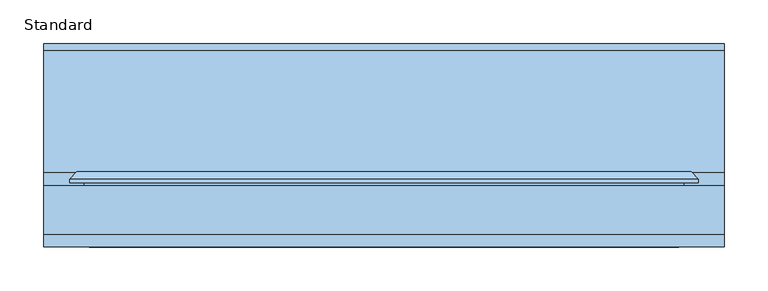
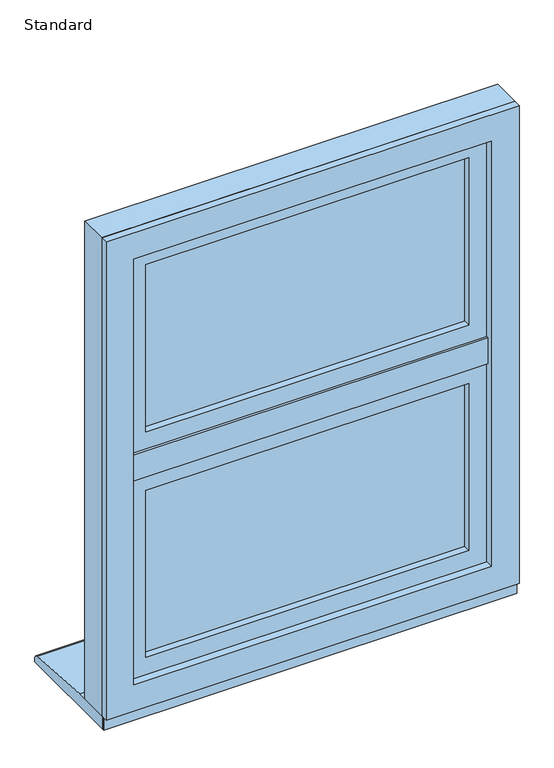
"""IFC4 building model written with IfcOpenShell, lengths in millimetres: window geometry, SMARTS_Alitherm600 : Standard."""

import ifcopenshell
import ifcopenshell.guid

model = None  # the IFC model being written
_history = None  # IfcOwnerHistory: only IFC2X3 demands one
_inside = {}  # id of a spatial element -> (the spatial element, [elements in it])
_under = {}  # id of a project, library or spatial element -> (it, [spatial elements below it])
_declared = {}  # id of a project -> (the project, [libraries it declares])
_typed = {}  # id of a type object -> (the type object, [elements of that type])
_made_of = {}  # id of a material, layer set ... -> (it, [elements and type objects made of it])


def new_model(schema):
    """Start an empty IFC model of exactly this schema.

    Asked for "IFC4X3", IfcOpenShell would pick the latest addendum, in which some entities
    have other attributes; the version numbers below select the first issue.
    IFC2X3 requires an IfcOwnerHistory on every rooted entity: one is made here for all.
    """
    global model, _history
    if schema == "IFC4X3":
        model = ifcopenshell.file(schema_version=(4, 3, 0, 0))
    else:
        model = ifcopenshell.file(schema=schema)
    _inside.clear()
    _under.clear()
    _declared.clear()
    _typed.clear()
    _made_of.clear()
    _history = None
    if model.schema == "IFC2X3":
        org = make("IfcOrganization", Name="unknown")
        user = make(
            "IfcPersonAndOrganization",
            ThePerson=make("IfcPerson", FamilyName="unknown"),
            TheOrganization=org,
        )
        app = make(
            "IfcApplication",
            ApplicationDeveloper=org,
            Version="unknown",
            ApplicationFullName="unknown",
            ApplicationIdentifier="unknown",
        )
        _history = make(
            "IfcOwnerHistory",
            OwningUser=user,
            OwningApplication=app,
            ChangeAction="ADDED",
            CreationDate=0,
        )
    return model


def make(cls, **values):
    """One entity of the class cls with the attributes given. An attribute that is None is left unset."""
    return model.create_entity(
        cls, **{name: value for name, value in values.items() if value is not None}
    )


def rooted(cls, **values):
    """An entity with a GlobalId (a new one), such as an element, a storey or a relation."""
    return make(cls, GlobalId=ifcopenshell.guid.new(), OwnerHistory=_history, **values)


def si_unit(unit_type, name, prefix=None):
    """IfcSIUnit, for example si_unit("LENGTHUNIT", "METRE", prefix="MILLI")."""
    return make("IfcSIUnit", UnitType=unit_type, Prefix=prefix, Name=name)


def assignment(units):
    """IfcUnitAssignment: the units of a project."""
    return None if units is None else make("IfcUnitAssignment", Units=units)


def point(xyz):
    """IfcCartesianPoint."""
    return None if xyz is None else make("IfcCartesianPoint", Coordinates=xyz)


def direction(xyz):
    """IfcDirection."""
    return None if xyz is None else make("IfcDirection", DirectionRatios=xyz)


def frame(location, z_axis=None, x_axis=None):
    """IfcAxis2Placement3D, a coordinate frame: its origin and axes. An axis left out is left unset."""
    return make(
        "IfcAxis2Placement3D",
        Location=point(location),
        Axis=direction(z_axis),
        RefDirection=direction(x_axis),
    )


def frame_2d(location, x_axis=None):
    """IfcAxis2Placement2D, a coordinate frame in the plane: its origin and x axis."""
    return make(
        "IfcAxis2Placement2D", Location=point(location), RefDirection=direction(x_axis)
    )


def origin():
    """The frame at (0, 0, 0) with its axes left unset."""
    return frame((0.0, 0.0, 0.0))


def place(relative_to, where):
    """IfcLocalPlacement: puts the frame where relative to a parent placement (None: the world)."""
    return make(
        "IfcLocalPlacement", PlacementRelTo=relative_to, RelativePlacement=where
    )


def context(
    kind, dimensions, precision=None, world=None, true_north=None, identifier=None
):
    """IfcGeometricRepresentationContext, for example the 3D "Model" context."""
    return make(
        "IfcGeometricRepresentationContext",
        ContextIdentifier=identifier,
        ContextType=kind,
        CoordinateSpaceDimension=dimensions,
        Precision=precision,
        WorldCoordinateSystem=world,
        TrueNorth=true_north,
    )


def project(units=None, contexts=None):
    """IfcProject with its units and contexts."""
    return rooted(
        "IfcProject",
        Name="project",
        RepresentationContexts=contexts,
        UnitsInContext=assignment(units),
    )


def spatial(cls, under=None, at=None, **own):
    """A site, building, storey or space (cls), placed at a placement, below another one or the project."""
    s = rooted(cls, ObjectPlacement=at, **own)
    if under is not None:
        _under.setdefault(under.id(), (under, []))[1].append(s)
    return s


def polyline(points):
    """IfcPolyline through the points."""
    return make("IfcPolyline", Points=[point(p) for p in points])


def circle_curve(where, radius):
    """IfcCircle in the frame where."""
    return make("IfcCircle", Position=where, Radius=radius)


def trimmed(basis, trim1, trim2, sense, master):
    """IfcTrimmedCurve: the piece of a basis curve between two trims."""
    return make(
        "IfcTrimmedCurve",
        BasisCurve=basis,
        Trim1=trim1,
        Trim2=trim2,
        SenseAgreement=sense,
        MasterRepresentation=master,
    )


def segment(curve, same_sense, transition):
    """IfcCompositeCurveSegment."""
    return make(
        "IfcCompositeCurveSegment",
        Transition=transition,
        SameSense=same_sense,
        ParentCurve=curve,
    )


def composite_curve(segments, self_intersect=None):
    """IfcCompositeCurve: segments joined end to end."""
    return make("IfcCompositeCurve", Segments=segments, SelfIntersect=self_intersect)


def outline(outer, holes=None, kind="AREA"):
    """IfcArbitraryClosedProfileDef: a profile drawn as a closed curve; with holes, ...WithVoids."""
    if holes is None:
        return make("IfcArbitraryClosedProfileDef", ProfileType=kind, OuterCurve=outer)
    return make(
        "IfcArbitraryProfileDefWithVoids",
        ProfileType=kind,
        OuterCurve=outer,
        InnerCurves=holes,
    )


def extrude(swept, where, along, depth):
    """IfcExtrudedAreaSolid: the profile swept, set in the frame where, extruded along a direction by depth."""
    return make(
        "IfcExtrudedAreaSolid",
        SweptArea=swept,
        Position=where,
        ExtrudedDirection=direction(along),
        Depth=depth,
    )


def faces_of(points, faces, orient=None, outer=None):
    """IfcFace entities. A face is a list of loops; a loop is a list of indices into points, from 0.

    orient and outer hold one flag for each loop. By default every Orientation is true, the
    first loop of a face is its IfcFaceOuterBound and the others are IfcFaceBound.
    """
    made = []
    for i, loops in enumerate(faces):
        bounds = []
        for j, loop in enumerate(loops):
            is_outer = j == 0 if outer is None else outer[i][j]
            bounds.append(
                make(
                    "IfcFaceOuterBound" if is_outer else "IfcFaceBound",
                    Bound=make("IfcPolyLoop", Polygon=[points[k] for k in loop]),
                    Orientation=True if orient is None else orient[i][j],
                )
            )
        made.append(make("IfcFace", Bounds=bounds))
    return made


def faceted_brep(points, faces, orient=None, outer=None, voids=None):
    """IfcFacetedBrep: a solid bounded by flat faces; with voids (closed shells), ...WithVoids."""
    shared = [point(p) for p in points]
    hull = make("IfcClosedShell", CfsFaces=faces_of(shared, faces, orient, outer))
    if voids is None:
        return make("IfcFacetedBrep", Outer=hull)
    return make(
        "IfcFacetedBrepWithVoids",
        Outer=hull,
        Voids=[
            make(cls, CfsFaces=faces_of(shared, fs, o, b)) for cls, fs, o, b in voids
        ],
    )


def shape(context_of_items, identifier, shape_type, items):
    """IfcShapeRepresentation: the items that make up one representation, for example the "Body"."""
    return make(
        "IfcShapeRepresentation",
        ContextOfItems=context_of_items,
        RepresentationIdentifier=identifier,
        RepresentationType=shape_type,
        Items=items,
    )


def source(mapping_origin, context_of_items, identifier, shape_type, items):
    """IfcRepresentationMap: a shape defined once, which mapped items show again and again."""
    return make(
        "IfcRepresentationMap",
        MappingOrigin=mapping_origin,
        MappedRepresentation=shape(context_of_items, identifier, shape_type, items),
    )


def transform(
    local_origin,
    x_axis=None,
    y_axis=None,
    z_axis=None,
    scale=None,
    scale2=None,
    scale3=None,
    uniform=True,
):
    """IfcCartesianTransformationOperator3D, or its non-uniform kind. x_axis, y_axis, z_axis: its Axis1, 2, 3."""
    if uniform:
        return make(
            "IfcCartesianTransformationOperator3D",
            Axis1=direction(x_axis),
            Axis2=direction(y_axis),
            LocalOrigin=point(local_origin),
            Scale=scale,
            Axis3=direction(z_axis),
        )
    return make(
        "IfcCartesianTransformationOperator3DnonUniform",
        Axis1=direction(x_axis),
        Axis2=direction(y_axis),
        LocalOrigin=point(local_origin),
        Scale=scale,
        Axis3=direction(z_axis),
        Scale2=scale2,
        Scale3=scale3,
    )


def mapped(mapping_source, mapping_target):
    """IfcMappedItem: shows the shape of a source again, moved by a transform."""
    return make(
        "IfcMappedItem", MappingSource=mapping_source, MappingTarget=mapping_target
    )


def made_of(thing, what):
    """Note that an element or type object is made of a material, layer set ...; save() writes the relation."""
    if what is not None:
        _made_of.setdefault(what.id(), (what, []))[1].append(thing)
    return thing


def element(
    cls,
    number,
    at=None,
    inside=None,
    cuts=None,
    type_object=None,
    material=None,
    context=None,
    identifier="Body",
    shape_type=None,
    held_by="IfcProductDefinitionShape",
    body=None,
    shapes=None,
    **own,
):
    """One element of the class cls, such as IfcWall. Its Tag is "e" and its number.

    at: its placement. inside: the storey or other place that contains it. cuts: it is an
    opening in that element (IfcRelVoidsElement). A single representation is given by context,
    identifier, shape_type and body (its items); several are given by shapes. held_by: the class
    of the entity that holds the representations. save() writes the other relations.
    """
    e = rooted(cls, Tag="e%d" % number, ObjectPlacement=at, **own)
    if body is not None:
        shapes = [shape(context, identifier, shape_type, body)]
    if shapes is not None:
        e.Representation = make(held_by, Representations=shapes)
    if inside is not None:
        _inside.setdefault(inside.id(), (inside, []))[1].append(e)
    if cuts is not None:
        rooted(
            "IfcRelVoidsElement", RelatingBuildingElement=cuts, RelatedOpeningElement=e
        )
    if type_object is not None:
        _typed.setdefault(type_object.id(), (type_object, []))[1].append(e)
    return made_of(e, material)


def aggregate(whole, parts):
    """IfcRelAggregates: a whole, such as a stair, and the parts it consists of."""
    return rooted("IfcRelAggregates", RelatingObject=whole, RelatedObjects=parts)


def save(model, path):
    """Write the relations noted so far, then the file.

    IfcRelAggregates (storeys below a building ...), IfcRelContainedInSpatialStructure (elements
    in a storey), IfcRelDefinesByType, IfcRelAssociatesMaterial and IfcRelDeclares: one each for
    every whole, place, type object, material and project.
    """
    for whole, parts in _under.values():
        aggregate(whole, parts)
    for where, things in _inside.values():
        rooted(
            "IfcRelContainedInSpatialStructure",
            RelatedElements=things,
            RelatingStructure=where,
        )
    for kind, things in _typed.values():
        rooted("IfcRelDefinesByType", RelatedObjects=things, RelatingType=kind)
    for what, things in _made_of.values():
        rooted("IfcRelAssociatesMaterial", RelatedObjects=things, RelatingMaterial=what)
    for by, libraries in _declared.values():
        rooted("IfcRelDeclares", RelatingContext=by, RelatedDefinitions=libraries)
    model.write(path)


def standard_c10d99b5(model_context):
    return source(origin(), model_context, "Body", "SolidModel", [
        extrude(outline(polyline([(354.1020883, 102.8298432), (354.1020883, 47.2458572), (-354.1020883, 47.2458572), (-354.1020883, 102.8298432), (354.1020883, 102.8298432)])), frame((0.0, 0.0, 1103.1), z_axis=(0.0, 0.0, 1.0), x_axis=(1.0, 0.0, 0.0)), (0.0, 0.0, 1.0), 18.8),
        extrude(outline(polyline([(337.6, 47.2458572), (337.6, 43.2798432), (-337.6, 43.2798432), (-337.6, 47.2458572), (337.6, 47.2458572)])), frame((0.0, 0.0, 1086.5979117), z_axis=(0.0, 0.0, 1.0), x_axis=(1.0, 0.0, 0.0)), (0.0, 0.0, 1.0), 51.8041766),
        extrude(outline(polyline([(1065.5, -316.6), (708.4, -316.6), (708.4, 316.6), (1065.5, 316.6), (1065.5, -316.6)]), holes=[polyline([(1055.5, 306.6), (718.4, 306.6), (718.4, -306.6), (1055.5, -306.6), (1055.5, 306.6)])]), frame((0.0, 72.3211351, 0.0), z_axis=(0.0, 1.0, 0.0), x_axis=(0.0, 0.0, 1.0)), (0.0, 0.0, 1.0), 16.0),
        extrude(outline(polyline([(-316.6, 92.3211351), (316.6, 92.3211351), (316.6, 88.3211351), (-316.6, 88.3211351), (-316.6, 92.3211351)])), frame((0.0, 0.0, 708.4), z_axis=(0.0, 0.0, 1.0), x_axis=(1.0, 0.0, 0.0)), (0.0, 0.0, 1.0), 357.1),
        extrude(outline(polyline([(-316.6, 72.3211351), (316.6, 72.3211351), (316.6, 68.3211351), (-316.6, 68.3211351), (-316.6, 72.3211351)])), frame((0.0, 0.0, 708.4), z_axis=(0.0, 0.0, 1.0), x_axis=(1.0, 0.0, 0.0)), (0.0, 0.0, 1.0), 357.1),
        faceted_brep([(316.9221147, 118.8818325, 1065.8221147), (304.740024, 97.7818325, 1053.640024), (-304.740024, 97.7818325, 1053.640024), (-316.9221147, 118.8818325, 1065.8221147), (321.6060494, 97.7818325, 1070.5060494), (321.6060494, 118.8818325, 1070.5060494), (-321.6060494, 118.8818325, 1070.5060494), (-321.6060494, 97.7818325, 1070.5060494), (-304.740024, 97.7818325, 720.259976), (-316.9221147, 118.8818325, 708.0778853), (-321.6060494, 118.8818325, 703.3939506), (-321.6060494, 97.7818325, 703.3939506), (304.740024, 97.7818325, 720.259976), (316.9221147, 118.8818325, 708.0778853), (321.6060494, 118.8818325, 703.3939506), (321.6060494, 97.7818325, 703.3939506)], [[[0, 1, 2, 3]], [[4, 5, 6, 7]], [[3, 2, 8, 9]], [[7, 6, 10, 11]], [[9, 8, 12, 13]], [[11, 10, 14, 15]], [[13, 12, 1, 0]], [[5, 14, 10, 6], [3, 9, 13, 0]], [[15, 14, 5, 4]], [[7, 11, 15, 4], [1, 12, 8, 2]]]),
        extrude(outline(polyline([(681.552908, -343.447092), (681.552908, 343.447092), (1092.347092, 343.447092), (1092.347092, -343.447092), (681.552908, -343.447092)]), holes=[polyline([(1054.0, -305.1), (1054.0, 305.1), (719.9, 305.1), (719.9, -305.1), (1054.0, -305.1)])]), frame((0.0, 50.2798432, 0.0), z_axis=(0.0, 1.0, 0.0), x_axis=(0.0, 0.0, 1.0)), (0.0, 0.0, 1.0), 13.0853156),
        faceted_brep([(-321.6060494, 118.8818325, 1070.5060494), (-321.6060494, 63.3651588, 1070.5060494), (-321.6060494, 63.3651588, 703.3939506), (-321.6060494, 118.8818325, 703.3939506), (321.6060494, 63.3651588, 703.3939506), (321.6060494, 118.8818325, 703.3939506), (321.6060494, 63.3651588, 1070.5060494), (321.6060494, 118.8818325, 1070.5060494), (-360.3358988, 106.2818325, 1109.2358988), (-360.3358988, 110.3519831, 1109.2358988), (-360.3358988, 110.3519831, 664.6641012), (-360.3358988, 106.2818325, 664.6641012), (360.3358988, 110.3519831, 664.6641012), (360.3358988, 106.2818325, 664.6641012), (360.3358988, 110.3519831, 1109.2358988), (360.3358988, 106.2818325, 1109.2358988), (-343.7467657, 106.2818325, 1092.6467657), (343.7467657, 106.2818325, 1092.6467657), (343.7467657, 106.2818325, 681.2532343), (-343.7467657, 106.2818325, 681.2532343), (-351.8060494, 118.8818325, 1100.7060494), (351.8060494, 118.8818325, 1100.7060494), (351.8060494, 118.8818325, 673.1939506), (-351.8060494, 118.8818325, 673.1939506), (-343.7467657, 63.3651588, 1092.6467657), (-343.7467657, 63.3651588, 681.2532343), (343.7467657, 63.3651588, 681.2532343), (343.7467657, 63.3651588, 1092.6467657)], [[[0, 1, 2, 3]], [[3, 2, 4, 5]], [[5, 4, 6, 7]], [[7, 6, 1, 0]], [[8, 9, 10, 11]], [[11, 10, 12, 13]], [[13, 12, 14, 15]], [[11, 13, 15, 8], [16, 17, 18, 19]], [[15, 14, 9, 8]], [[20, 21, 22, 23], [3, 5, 7, 0]], [[24, 16, 19, 25]], [[25, 19, 18, 26]], [[26, 18, 17, 27]], [[25, 26, 27, 24], [1, 6, 4, 2]], [[27, 17, 16, 24]], [[9, 20, 23, 10]], [[10, 23, 22, 12]], [[12, 22, 21, 14]], [[14, 21, 20, 9]]]),
        extrude(outline(polyline([(1590.0, 390.0), (1590.0, -390.0), (635.0, -390.0), (635.0, 390.0), (1590.0, 390.0)]), holes=[polyline([(670.85, 354.15), (670.85, -354.15), (1554.15, -354.15), (1554.15, 354.15), (670.85, 354.15)])]), frame((0.0, 47.2798427, 0.0), z_axis=(0.0, 1.0, 0.0), x_axis=(0.0, 0.0, 1.0)), (0.0, 0.0, 1.0), 55.5500006),
        extrude(outline(polyline([(1590.0, 390.0), (1590.0, -390.0), (635.0, -390.0), (635.0, 390.0), (1590.0, 390.0)]), holes=[polyline([(687.35, 337.65), (687.35, -337.65), (1537.65, -337.65), (1537.65, 337.65), (687.35, 337.65)])]), frame((0.0, 32.8298432, 0.0), z_axis=(0.0, 1.0, 0.0), x_axis=(0.0, 0.0, 1.0)), (0.0, 0.0, 1.0), 14.4499994),
        extrude(outline(polyline([(1516.6, -316.6), (1159.5, -316.6), (1159.5, 316.6), (1516.6, 316.6), (1516.6, -316.6)]), holes=[polyline([(1506.6, 306.6), (1169.5, 306.6), (1169.5, -306.6), (1506.6, -306.6), (1506.6, 306.6)])]), frame((0.0, 72.3211351, 0.0), z_axis=(0.0, 1.0, 0.0), x_axis=(0.0, 0.0, 1.0)), (0.0, 0.0, 1.0), 16.0),
        extrude(outline(polyline([(-316.6, 92.3211351), (316.6, 92.3211351), (316.6, 88.3211351), (-316.6, 88.3211351), (-316.6, 92.3211351)])), frame((0.0, 0.0, 1159.5), z_axis=(0.0, 0.0, 1.0), x_axis=(1.0, 0.0, 0.0)), (0.0, 0.0, 1.0), 357.1),
        extrude(outline(polyline([(-316.6, 72.3211351), (316.6, 72.3211351), (316.6, 68.3211351), (-316.6, 68.3211351), (-316.6, 72.3211351)])), frame((0.0, 0.0, 1159.5), z_axis=(0.0, 0.0, 1.0), x_axis=(1.0, 0.0, 0.0)), (0.0, 0.0, 1.0), 357.1),
        faceted_brep([(316.9221147, 118.8818325, 1516.9221147), (304.740024, 97.7818325, 1504.740024), (-304.740024, 97.7818325, 1504.740024), (-316.9221147, 118.8818325, 1516.9221147), (321.6060494, 97.7818325, 1521.6060494), (321.6060494, 118.8818325, 1521.6060494), (-321.6060494, 118.8818325, 1521.6060494), (-321.6060494, 97.7818325, 1521.6060494), (-304.740024, 97.7818325, 1171.359976), (-316.9221147, 118.8818325, 1159.1778853), (-321.6060494, 118.8818325, 1154.4939506), (-321.6060494, 97.7818325, 1154.4939506), (304.740024, 97.7818325, 1171.359976), (316.9221147, 118.8818325, 1159.1778853), (321.6060494, 118.8818325, 1154.4939506), (321.6060494, 97.7818325, 1154.4939506)], [[[0, 1, 2, 3]], [[4, 5, 6, 7]], [[3, 2, 8, 9]], [[7, 6, 10, 11]], [[9, 8, 12, 13]], [[11, 10, 14, 15]], [[13, 12, 1, 0]], [[5, 14, 10, 6], [3, 9, 13, 0]], [[15, 14, 5, 4]], [[7, 11, 15, 4], [1, 12, 8, 2]]]),
        extrude(outline(polyline([(1132.652908, -343.447092), (1132.652908, 343.447092), (1543.447092, 343.447092), (1543.447092, -343.447092), (1132.652908, -343.447092)]), holes=[polyline([(1505.1, -305.1), (1505.1, 305.1), (1171.0, 305.1), (1171.0, -305.1), (1505.1, -305.1)])]), frame((0.0, 50.2798432, 0.0), z_axis=(0.0, 1.0, 0.0), x_axis=(0.0, 0.0, 1.0)), (0.0, 0.0, 1.0), 13.0853156),
        faceted_brep([(-321.6060494, 118.8818325, 1521.6060494), (-321.6060494, 63.3651588, 1521.6060494), (-321.6060494, 63.3651588, 1154.4939506), (-321.6060494, 118.8818325, 1154.4939506), (321.6060494, 63.3651588, 1154.4939506), (321.6060494, 118.8818325, 1154.4939506), (321.6060494, 63.3651588, 1521.6060494), (321.6060494, 118.8818325, 1521.6060494), (-360.3358988, 106.2818325, 1560.3358988), (-360.3358988, 110.3519831, 1560.3358988), (-360.3358988, 110.3519831, 1115.7641012), (-360.3358988, 106.2818325, 1115.7641012), (360.3358988, 110.3519831, 1115.7641012), (360.3358988, 106.2818325, 1115.7641012), (360.3358988, 110.3519831, 1560.3358988), (360.3358988, 106.2818325, 1560.3358988), (-343.7467657, 106.2818325, 1543.7467657), (343.7467657, 106.2818325, 1543.7467657), (343.7467657, 106.2818325, 1132.3532343), (-343.7467657, 106.2818325, 1132.3532343), (-351.8060494, 118.8818325, 1551.8060494), (351.8060494, 118.8818325, 1551.8060494), (351.8060494, 118.8818325, 1124.2939506), (-351.8060494, 118.8818325, 1124.2939506), (-343.7467657, 63.3651588, 1543.7467657), (-343.7467657, 63.3651588, 1132.3532343), (343.7467657, 63.3651588, 1132.3532343), (343.7467657, 63.3651588, 1543.7467657)], [[[0, 1, 2, 3]], [[3, 2, 4, 5]], [[5, 4, 6, 7]], [[7, 6, 1, 0]], [[8, 9, 10, 11]], [[11, 10, 12, 13]], [[13, 12, 14, 15]], [[11, 13, 15, 8], [16, 17, 18, 19]], [[15, 14, 9, 8]], [[20, 21, 22, 23], [3, 5, 7, 0]], [[24, 16, 19, 25]], [[25, 19, 18, 26]], [[26, 18, 17, 27]], [[25, 26, 27, 24], [1, 6, 4, 2]], [[27, 17, 16, 24]], [[9, 20, 23, 10]], [[10, 23, 22, 12]], [[12, 22, 21, 14]], [[14, 21, 20, 9]]]),
        extrude(outline(polyline([(390.0, 43.2798432), (390.0, 40.7798432), (-390.0, 40.7798432), (-390.0, 43.2798432), (390.0, 43.2798432)])), frame((0.0, 0.0, 610.0), z_axis=(0.0, 0.0, 1.0), x_axis=(1.0, 0.0, 0.0)), (0.0, 0.0, 1.0), 31.0),
        extrude(outline(composite_curve([segment(polyline([(265.7798432, 610.0), (43.2798432, 610.0), (43.2798432, 635.0), (118.7798432, 635.0), (258.4770891, 625.9276664)]), True, "CONTINUOUS"), segment(trimmed(circle_curve(frame_2d((257.7798432, 617.9581088)), 8.0), [point((258.4770891, 625.9276664))], [point((265.7798432, 617.9581088))], False, "CARTESIAN"), True, "CONTINUOUS"), segment(polyline([(265.7798432, 617.9581088), (265.7798432, 610.0)]), True, "CONTINUOUS")], self_intersect=False)), frame((-390.0, 0.0, 0.0), z_axis=(1.0, 0.0, 0.0), x_axis=(0.0, 1.0, 0.0)), (0.0, 0.0, 1.0), 780.0),
    ])


if __name__ == "__main__":
    model = new_model("IFC4")
    model_context = context("Model", 3, world=origin())
    ifc_project = project(units=[si_unit("LENGTHUNIT", "METRE", prefix="MILLI")], contexts=[model_context])
    site = spatial("IfcSite", under=ifc_project)
    building = spatial("IfcBuilding", under=site)
    placement = place(None, origin())
    standard_shape = standard_c10d99b5(model_context)
    element("IfcWindow", 1, ObjectType="SMARTS_Alitherm600 : Standard", at=placement, inside=building, context=model_context, shape_type="MappedRepresentation", body=[
        mapped(standard_shape, transform((0.0, 0.0, 0.0), x_axis=(1.0, 0.0, 0.0), y_axis=(0.0, 1.0, 0.0), z_axis=(0.0, 0.0, 1.0))),
    ])
    save(model, "model.ifc")
